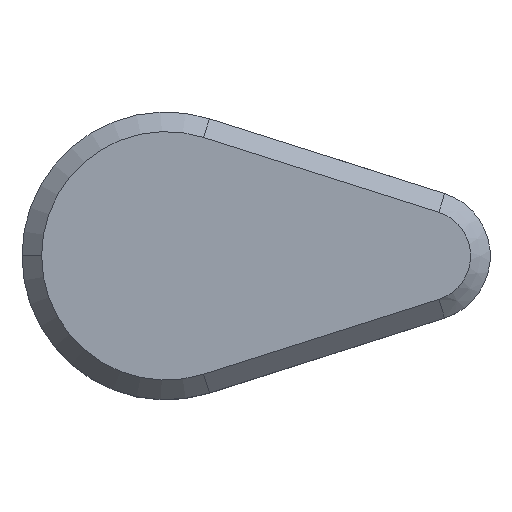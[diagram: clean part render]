
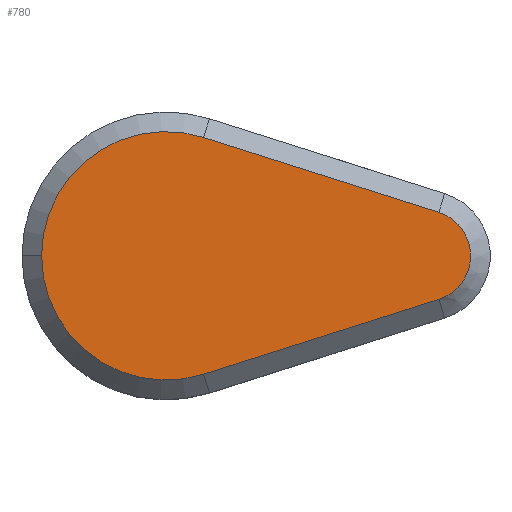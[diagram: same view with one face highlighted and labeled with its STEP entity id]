
A CAD part, top view. The second image highlights one B-rep face of the part: STEP entity #780.
In plain terms, the highlighted planar face has unit normal (0, 0, 1).
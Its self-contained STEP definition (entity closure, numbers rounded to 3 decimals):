
#47 = AXIS2_PLACEMENT_3D ( 'NONE', #323, #779, #136 ) ;
#107 = CARTESIAN_POINT ( 'NONE',  ( 1.439, 4.527, 7.5 ) ) ;
#116 = EDGE_CURVE ( 'NONE', #138, #1113, #319, .T. ) ;
#119 = ORIENTED_EDGE ( 'NONE', *, *, #306, .T. ) ;
#135 = CARTESIAN_POINT ( 'NONE',  ( 1.439, -4.527, 7.5 ) ) ;
#136 = DIRECTION ( 'NONE',  ( 1., 0., 0. ) ) ;
#138 = VERTEX_POINT ( 'NONE', #107 ) ;
#139 = LINE ( 'NONE', #135, #238 ) ;
#191 = DIRECTION ( 'NONE',  ( 1., 0., 0. ) ) ;
#238 = VECTOR ( 'NONE', #582, 1000. ) ;
#248 = FACE_OUTER_BOUND ( 'NONE', #707, .T. ) ;
#292 = DIRECTION ( 'NONE',  ( -0.953, 0.303, 0. ) ) ;
#306 = EDGE_CURVE ( 'NONE', #469, #665, #139, .T. ) ;
#319 = CIRCLE ( 'NONE', #1141, 4.75 ) ;
#323 = CARTESIAN_POINT ( 'NONE',  ( 0., 0., 7.5 ) ) ;
#343 = CARTESIAN_POINT ( 'NONE',  ( -4.75, 0., 7.5 ) ) ;
#380 = CARTESIAN_POINT ( 'NONE',  ( 1.439, -4.527, 7.5 ) ) ;
#389 = CARTESIAN_POINT ( 'NONE',  ( 10.43, -1.668, 7.5 ) ) ;
#390 = CARTESIAN_POINT ( 'NONE',  ( 1.439, 4.527, 7.5 ) ) ;
#391 = CIRCLE ( 'NONE', #970, 4.75 ) ;
#418 = ORIENTED_EDGE ( 'NONE', *, *, #1144, .T. ) ;
#424 = CARTESIAN_POINT ( 'NONE',  ( 0., 0., 7.5 ) ) ;
#464 = ORIENTED_EDGE ( 'NONE', *, *, #998, .T. ) ;
#469 = VERTEX_POINT ( 'NONE', #380 ) ;
#506 = AXIS2_PLACEMENT_3D ( 'NONE', #689, #873, #868 ) ;
#552 = DIRECTION ( 'NONE',  ( 0., 0., 1. ) ) ;
#582 = DIRECTION ( 'NONE',  ( 0.953, 0.303, 0. ) ) ;
#665 = VERTEX_POINT ( 'NONE', #389 ) ;
#683 = ORIENTED_EDGE ( 'NONE', *, *, #116, .T. ) ;
#689 = CARTESIAN_POINT ( 'NONE',  ( 9.9, 0., 7.5 ) ) ;
#707 = EDGE_LOOP ( 'NONE', ( #418, #464, #683, #983, #119 ) ) ;
#730 = DIRECTION ( 'NONE',  ( 0., 0., 1. ) ) ;
#763 = CARTESIAN_POINT ( 'NONE',  ( 10.43, 1.668, 7.5 ) ) ;
#779 = DIRECTION ( 'NONE',  ( 0., 0., 1. ) ) ;
#780 = ADVANCED_FACE ( 'NONE', ( #248 ), #1027, .T. ) ;
#832 = VERTEX_POINT ( 'NONE', #763 ) ;
#868 = DIRECTION ( 'NONE',  ( 1., 0., 0. ) ) ;
#873 = DIRECTION ( 'NONE',  ( 0., 0., 1. ) ) ;
#912 = EDGE_CURVE ( 'NONE', #1113, #469, #391, .T. ) ;
#970 = AXIS2_PLACEMENT_3D ( 'NONE', #424, #730, #191 ) ;
#983 = ORIENTED_EDGE ( 'NONE', *, *, #912, .T. ) ;
#998 = EDGE_CURVE ( 'NONE', #832, #138, #1010, .T. ) ;
#1006 = CIRCLE ( 'NONE', #506, 1.75 ) ;
#1010 = LINE ( 'NONE', #390, #1076 ) ;
#1014 = CARTESIAN_POINT ( 'NONE',  ( 0., 0., 7.5 ) ) ;
#1027 = PLANE ( 'NONE',  #47 ) ;
#1076 = VECTOR ( 'NONE', #292, 1000. ) ;
#1090 = DIRECTION ( 'NONE',  ( 1., 0., 0. ) ) ;
#1113 = VERTEX_POINT ( 'NONE', #343 ) ;
#1141 = AXIS2_PLACEMENT_3D ( 'NONE', #1014, #552, #1090 ) ;
#1144 = EDGE_CURVE ( 'NONE', #665, #832, #1006, .T. ) ;
